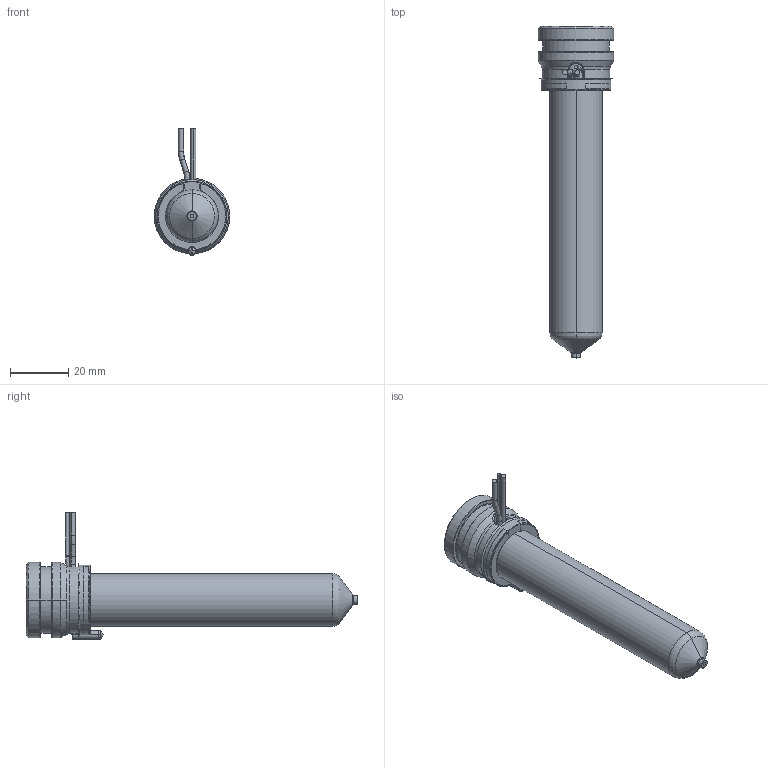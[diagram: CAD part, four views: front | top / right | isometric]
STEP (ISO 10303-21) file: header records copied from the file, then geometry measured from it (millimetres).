
FILE_DESCRIPTION((''),'2;1');
FILE_NAME('MPN-08-24-VP3-096-A','2026-02-05T12:01:38',('UPTIO'),('Thermoplay S.p.A.'),'CREO PARAMETRIC BY PTC INC, 2023494','CREO PARAMETRIC BY PTC INC, 2023494','');
FILE_SCHEMA(('CONFIG_CONTROL_DESIGN','SHAPE_APPEARANCE_LAYERS_GROUPS'));
Length unit declared in the file: millimetre
Products named in the file (1): MPN-08-24-VP3-096-A
Bounding box: 26 x 114.1 x 43.5 mm (x, y, z)
Volume: 22698.1 mm3; surface area: 28639.1 mm2
Topology: 2 solids, 3 shells, 587 faces, 1560 edges, 971 vertices
Faces by surface type: cylinder 184, plane 143, bspline 108, torus 70, cone 68, sphere 8, extrusion 6
Entity records: 31241 total; most frequent: CARTESIAN_POINT 14007, ORIENTED_EDGE 3104, DIRECTION 2714, EDGE_CURVE 1552, AXIS2_PLACEMENT_3D 1061, VERTEX_POINT 971, EDGE_LOOP 615, VECTOR 592
